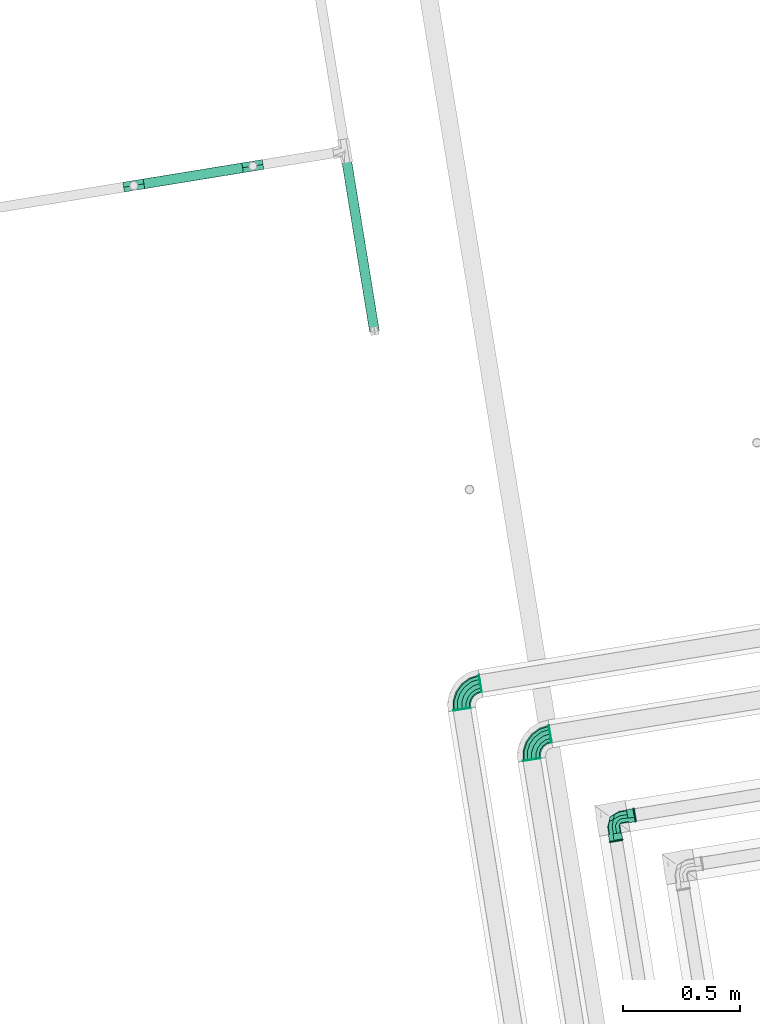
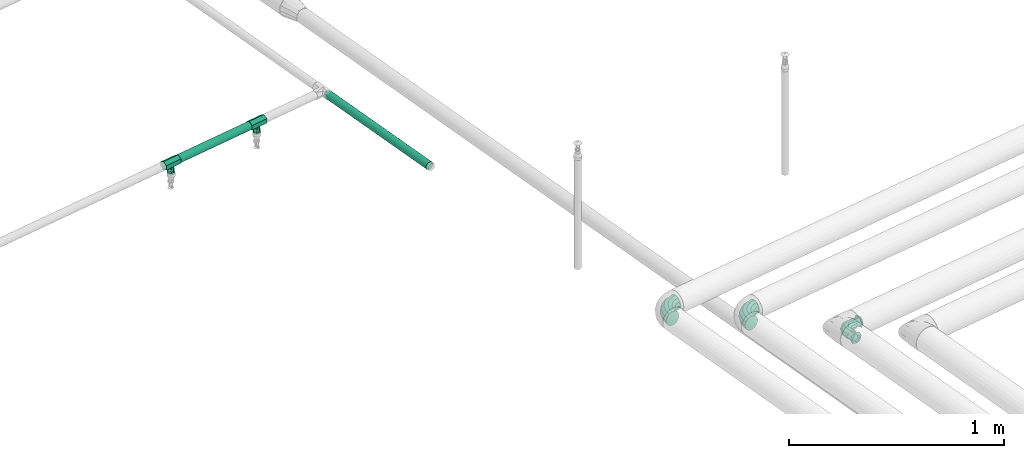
# One storey, part 21 of 46: 9 flow fittings, 2 flow segments.
"""IFC2X3 building model written with IfcOpenShell, lengths in millimetres."""

from ifc_helpers import new_model, entity, si_unit, converted_unit, derived_unit, direction, frame, frame_2d, origin, origin_with_axes, origin_2d_with_axis, place, context, subcontext, project, spatial, circle, extrude, faceted_brep, source, transform, mapped, material, material_list, type_object, element, save


model = new_model("IFC2X3")

# Units and contexts
model_context = context("Model", 3, precision=0.01, world=origin(), true_north=direction((6.12323399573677e-17, 1.0)))
plan_context = context("Plan", 3, precision=1e-05, world=origin_with_axes())
body_context = subcontext(model_context, "Body", "Model", "MODEL_VIEW")
ifc_project = project(units=[converted_unit("PLANEANGLEUNIT", "DEGREE", entity("IfcPositiveLengthMeasure", 0.0174532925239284), si_unit("PLANEANGLEUNIT", "RADIAN"), dimensions=[0, 0, 0, 0, 0, 0, 0]), si_unit("AREAUNIT", "SQUARE_METRE"), si_unit("LENGTHUNIT", "METRE", prefix="MILLI"), si_unit("MASSUNIT", "GRAM", prefix="KILO"), si_unit("POWERUNIT", "WATT"), si_unit("PRESSUREUNIT", "PASCAL", prefix="KILO"), si_unit("FORCEUNIT", "NEWTON", prefix="KILO"), si_unit("ELECTRICVOLTAGEUNIT", "VOLT"), si_unit("ELECTRICCURRENTUNIT", "AMPERE"), si_unit("THERMODYNAMICTEMPERATUREUNIT", "DEGREE_CELSIUS"), si_unit("TIMEUNIT", "SECOND"), si_unit("VOLUMEUNIT", "CUBIC_METRE"), derived_unit("LINEARVELOCITYUNIT", [(si_unit("LENGTHUNIT", "METRE"), 1), (si_unit("TIMEUNIT", "SECOND"), -1)]), derived_unit("VOLUMETRICFLOWRATEUNIT", [(si_unit("VOLUMEUNIT", "CUBIC_METRE"), 1), (si_unit("TIMEUNIT", "SECOND"), -1)]), derived_unit("THERMALTRANSMITTANCEUNIT", [(si_unit("POWERUNIT", "WATT"), 1), (si_unit("THERMODYNAMICTEMPERATUREUNIT", "KELVIN"), -1), (si_unit("AREAUNIT", "SQUARE_METRE"), -1)]), derived_unit("SOUNDPRESSUREUNIT", [(si_unit("PRESSUREUNIT", "PASCAL"), 1)])], contexts=[model_context, plan_context])

# Site, building, storey
site_placement = place(None, frame((-3.09682673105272e-06, 1.93776733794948e-05, 0.0), z_axis=(0.0, 0.0, 1.0), x_axis=(-0.160806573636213, 0.986985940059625, 0.0)))
site = spatial("IfcSite", under=ifc_project, at=site_placement, Name="Default", CompositionType="ELEMENT")
building_placement = place(site_placement, frame((0.0, 0.0, 0.0), z_axis=(0.0, 0.0, 1.0), x_axis=(1.0, -2.77555756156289e-17, 0.0)))
building = spatial("IfcBuilding", under=site, at=building_placement, Name="Bygning (endres i Project Information)", CompositionType="ELEMENT")
storey_placement = place(building_placement, frame((0.0, 0.0, 51360.0000000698), z_axis=(0.0, 0.0, 1.0), x_axis=(1.0, -2.77555756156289e-17, 0.0)))
storey = spatial("IfcBuildingStorey", under=building, at=storey_placement, Name="H01-Nivå D+0,36", CompositionType="ELEMENT", Elevation=51360.0000000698)

# Flow fittings
ifc_material_1 = material(Name="3320.001")
pipe_fitting_type_1 = type_object("IfcPipeFittingType", Name="RS_53_PIF_UN_Tee-Reduced-EN10241_MC_gen:RS_53_PIF_UN_Tee-Reduced-EN10241_MC_gen", PredefinedType="NOTDEFINED", material=ifc_material_1)
shared_shape_1 = source(origin(), body_context, "Body", "Brep", [
    faceted_brep([(44.0, 24.4999999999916, 0.0), (44.0, 18.3749999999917, 10.6088111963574), (44.0, 12.2499999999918, 21.2176223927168), (44.0, 0.0, 21.2176223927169), (44.0, -12.2500000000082, 21.217622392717), (44.0, -18.3750000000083, 10.6088111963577), (44.0, -24.5000000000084, 0.0), (44.0, -21.6281924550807, -4.97411657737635), (44.0, -18.3750000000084, -10.6088111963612), (44.0, -12.2500000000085, -21.2176223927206), (44.0, 0.0, -21.2176223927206), (44.0, 12.2499999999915, -21.2176223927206), (44.0, 18.3749999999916, -10.6088111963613), (-44.0, -12.2500000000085, -21.2176223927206), (-44.0, -18.3750000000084, -10.6088111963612), (-44.0, -24.5000000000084, 0.0), (-44.0, -21.6281923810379, 4.97411670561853), (-44.0, -18.3750000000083, 10.6088111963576), (-44.0, -12.2500000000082, 21.217622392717), (-44.0, 0.0, 21.2176223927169), (-44.0, 12.2499999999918, 21.2176223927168), (-44.0, 18.7563847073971, 9.94823350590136), (-44.0, 24.4999999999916, 0.0), (-44.0, 18.3749999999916, -10.6088111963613), (-44.0, 12.2499999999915, -21.2176223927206), (-44.0, 0.0, -21.2176223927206), (-8.07289668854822, -19.7195683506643, 9.70917342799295), (3.60420662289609, -14.9391367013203, 19.4183468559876), (15.7135516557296, -22.1097841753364, 4.85458671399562), (-19.7499999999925, -24.5000000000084, 0.0), (11.6771033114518, -19.7195683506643, 9.70917342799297), (19.7500000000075, -24.5000000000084, 0.0), (-15.715142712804, -22.1101683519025, -4.85429113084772), (-3.61057085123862, -14.9406734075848, -19.4171645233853), (-11.6802854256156, -19.7203367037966, -9.70858226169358), (8.06971457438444, -19.7203367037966, -9.70858226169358), (9.87500000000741, -51.0, -17.1040017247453), (14.8125000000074, -51.0, -8.55200086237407), (19.7500000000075, -51.0, 0.0), (14.8125000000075, -51.0, 8.55200086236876), (9.87500000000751, -51.0, 17.1040017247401), (0.0, -51.0, 17.1040017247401), (-9.87499999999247, -51.0, 17.1040017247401), (-14.8124999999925, -51.0, 8.55200086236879), (-19.7499999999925, -51.0, 0.0), (-14.8124999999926, -51.0, -8.55200086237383), (-9.87499999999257, -51.0, -17.1040017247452), (0.0, -51.0, -17.1040017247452)], [[[0, 1, 2, 3, 4, 5, 6, 7, 8, 9, 10, 11, 12]], [[13, 14, 15, 16, 17, 18, 19, 20, 21, 22, 23, 24, 25]], [[1, 0, 22, 21, 20, 2]], [[2, 20, 19, 3]], [[26, 17, 16]], [[18, 27, 19]], [[28, 6, 5]], [[29, 16, 15]], [[5, 27, 30, 28]], [[5, 4, 27]], [[27, 17, 26]], [[17, 27, 18]], [[26, 16, 29]], [[6, 28, 31]], [[19, 27, 3]], [[4, 3, 27]], [[32, 15, 14]], [[14, 33, 34, 32]], [[31, 7, 6]], [[35, 8, 7]], [[8, 33, 9]], [[33, 8, 35]], [[15, 32, 29]], [[24, 23, 22, 0, 12, 11]], [[25, 24, 11, 10]], [[14, 13, 33]], [[13, 25, 33]], [[35, 7, 31]], [[10, 33, 25]], [[10, 9, 33]], [[36, 37, 38, 39, 40, 41, 42, 43, 44, 45, 46, 47]], [[29, 45, 44]], [[34, 46, 45]], [[35, 36, 47]], [[33, 46, 34]], [[37, 36, 35]], [[45, 29, 32, 34]], [[31, 37, 35]], [[37, 31, 38]], [[47, 46, 33]], [[35, 47, 33]], [[31, 39, 38]], [[30, 40, 39]], [[26, 42, 41]], [[27, 40, 30]], [[43, 42, 26]], [[39, 31, 28, 30]], [[29, 43, 26]], [[43, 29, 44]], [[41, 40, 27]], [[26, 41, 27]]]),
])
for number, where, z_axis, x_axis in (
    (1, (1002299.88520526, -345724.575122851, 3458.80002629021), (1.0, -2.77555756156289e-17, 0.0), (2.77555756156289e-17, 1.0, 0.0)),
    (2, (1002299.88520526, -346239.575122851, 3458.80002629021), (1.0, -2.77555756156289e-17, 0.0), (2.77555756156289e-17, 1.0, 0.0)),
):
    element("IfcFlowFitting", number, at=place(storey_placement, frame(where, z_axis=z_axis, x_axis=x_axis)), inside=storey, type_object=pipe_fitting_type_1, material=ifc_material_1, Name="RS_53_PIF_UN_Tee-Reduced-EN10241_MC_gen:RS_53_PIF_UN_Tee-Reduced-EN10241_MC_gen", ObjectType="RS_53_PIF_UN_Tee-Reduced-EN10241_MC_gen:RS_53_PIF_UN_Tee-Reduced-EN10241_MC_gen", context=body_context, shape_type="MappedRepresentation", body=[
        mapped(shared_shape_1, transform((0.0, 0.0, 0.0), scale=1.0)),
    ])
ifc_material_2 = material(Name="<Unnamed>")
pipe_fitting_type_2 = type_object("IfcPipeFittingType", Name="Sveis:Sveis", PredefinedType="NOTDEFINED", material=ifc_material_2)
shared_shape_2 = source(origin(), body_context, "Body", "SweptSolid", [
    extrude(circle(Radius=38.05, at=frame_2d((1.62943588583e-15, -6.14714710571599e-14), x_axis=(1.0, 0.0))), origin(), (0.0, 0.0, 1.0), 2.0),
])
for number, where, z_axis, x_axis in (
    (3, (999963.367642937, -346841.899155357, 3440.0), (-2.77555756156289e-17, -1.0, 0.0), (1.0, -2.77555756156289e-17, 0.0)),
    (4, (999868.867642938, -346747.399155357, 3440.0), (-1.0, 2.77555756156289e-17, 0.0), (0.0, 0.0, 1.0)),
    (5, (999703.367642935, -347101.899155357, 3440.0), (-2.77555756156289e-17, -1.0, 0.0), (1.0, -2.77555756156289e-17, 0.0)),
    (6, (999608.867642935, -347007.399155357, 3440.0), (-1.0, 2.77555756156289e-17, 0.0), (0.0, 0.0, 1.0)),
):
    element("IfcFlowFitting", number, at=place(storey_placement, frame(where, z_axis=z_axis, x_axis=x_axis)), inside=storey, type_object=pipe_fitting_type_2, material=ifc_material_2, Name="Sveis:Sveis", ObjectType="Sveis:Sveis", context=body_context, shape_type="MappedRepresentation", body=[
        mapped(shared_shape_2, transform((0.0, 0.0, 0.0), scale=1.0)),
    ])
ifc_material_3 = material(Name="Geberit_Plastic_Red")
ifc_material_4 = material(Name="Geberit_Mapress_C-Steel")
ifc_material_list = material_list([ifc_material_3, ifc_material_4])
pipe_fitting_type_3 = type_object("IfcPipeFittingType", Name="PRO_103184:DN10-100 / d12-108 - OD", PredefinedType="BEND", material=ifc_material_list)
shared_shape_3 = source(origin(), body_context, "Body", "Brep", [
    faceted_brep([(-8.80698433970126, 100.0, -27.1051107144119), (-9.84650783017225, 92.0, -13.552555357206), (-6.27743726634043, 92.0, -16.1456369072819), (8.80698433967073, 92.0, -27.1051107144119), (-15.6876901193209, 100.0, -17.6346316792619), (-28.5000000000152, 92.0, 0.0), (9.84650783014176, 100.0, -13.552555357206), (18.6534921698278, 92.0, -13.552555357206), (28.4999999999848, 92.0, 0.0), (28.4999999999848, 100.0, 0.0), (-28.5000000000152, 100.0, 0.0), (8.80698433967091, 100.0, 27.1051107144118), (9.84650783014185, 92.0, 13.5525553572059), (6.27743726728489, 92.0, 16.1456369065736), (-8.80698433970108, 92.0, 27.1051107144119), (15.6876904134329, 100.0, 17.6346312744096), (-9.84650783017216, 100.0, 13.552555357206), (-18.6534921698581, 92.0, 13.5525553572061), (-23.6776285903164, 98.4509619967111, -21.0189790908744), (-23.6307699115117, 94.6274304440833, -21.9569893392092), (-32.5000000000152, 96.0, 0.0), (-1.90597797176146, 95.9349964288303, -32.4435342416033), (23.6776286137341, 93.5490379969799, -21.0189790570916), (32.4999999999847, 96.0, 0.0), (-6.15280214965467, 98.7902501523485, -30.7567062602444), (22.1275082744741, 97.7912013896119, -23.222347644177), (23.6776285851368, 98.4509619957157, 21.0189790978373), (23.6307699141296, 94.6274304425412, 21.9569893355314), (1.90597798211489, 95.9349964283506, 32.4435342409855), (-23.6776286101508, 93.5490379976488, 21.0189790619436), (6.15280214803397, 98.7902501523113, 30.7567062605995), (-22.1275082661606, 97.7912013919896, 23.2223476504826)], [[[0, 1, 2, 3]], [[4, 1, 0]], [[4, 5, 1]], [[6, 0, 3]], [[6, 3, 7]], [[7, 8, 9]], [[4, 10, 5]], [[6, 7, 9]], [[11, 12, 13, 14]], [[15, 8, 12]], [[15, 12, 11]], [[16, 14, 17]], [[17, 5, 10]], [[16, 17, 10]], [[15, 9, 8]], [[16, 11, 14]], [[18, 10, 4, 0]], [[19, 2, 1, 5]], [[18, 19, 20]], [[3, 2, 21]], [[5, 20, 19]], [[3, 21, 22]], [[23, 8, 22]], [[19, 18, 21]], [[20, 10, 18]], [[22, 8, 7, 3]], [[0, 24, 18]], [[25, 23, 22]], [[21, 2, 19]], [[24, 6, 25]], [[25, 22, 21]], [[25, 21, 24]], [[9, 23, 25]], [[21, 18, 24]], [[6, 24, 0]], [[6, 9, 25]], [[26, 9, 15, 11]], [[27, 13, 12, 8]], [[26, 27, 23]], [[14, 13, 28]], [[8, 23, 27]], [[14, 28, 29]], [[20, 5, 29]], [[27, 26, 28]], [[23, 9, 26]], [[29, 5, 17, 14]], [[11, 30, 26]], [[31, 20, 29]], [[28, 13, 27]], [[30, 16, 31]], [[31, 29, 28]], [[31, 28, 30]], [[10, 20, 31]], [[28, 26, 30]], [[16, 30, 11]], [[16, 10, 31]]]),
    faceted_brep([(-8.3434588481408, 100.0, -25.6785259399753), (-9.32827057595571, 64.0, -12.8392629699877), (-0.492405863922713, 64.0, -19.2588944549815), (8.34345884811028, 64.0, -25.6785259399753), (-15.3088252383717, 100.0, -16.0915215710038), (-27.0, 64.0, 0.0), (-18.1641352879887, 64.0, -6.41963148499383), (-27.0, 100.0, 0.0), (9.32827057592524, 100.0, -12.8392629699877), (13.0075941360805, 64.0, -19.2588944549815), (17.6717294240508, 64.0, -12.8392629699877), (27.0, 100.0, 0.0), (22.335864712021, 64.0, -6.4196314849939), (27.0, 64.0, 0.0), (8.34345884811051, 100.0, 25.6785259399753), (9.32827057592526, 64.0, 12.8392629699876), (0.492405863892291, 64.0, 19.2588944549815), (-8.34345884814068, 64.0, 25.6785259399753), (15.3088252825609, 100.0, 16.0915215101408), (18.1641352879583, 64.0, 6.41963148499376), (-9.32827057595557, 100.0, 12.8392629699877), (-13.0075941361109, 64.0, 19.2588944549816), (-17.6717294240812, 64.0, 12.8392629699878), (-22.3358647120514, 64.0, 6.419631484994), (28.4999999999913, 100.0, 0.0), (9.84650783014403, 100.0, -13.5525553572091), (-8.80698433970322, 100.0, -27.105110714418), (18.6534921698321, 100.0, 13.5525553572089), (8.80698433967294, 100.0, 27.105110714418), (-18.6534921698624, 100.0, -13.552555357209), (-28.5000000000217, 100.0, 0.0), (-9.84650783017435, 100.0, 13.5525553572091), (-18.6534921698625, 65.0, -13.552555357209), (-23.5767460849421, 65.0, -6.7762776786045), (-28.5000000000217, 65.0, 0.0), (-8.80698433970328, 65.0, -27.105110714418), (-13.7302382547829, 65.0, -20.3288330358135), (28.4999999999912, 65.0, 0.0), (19.1732539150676, 65.0, -6.77627767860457), (12.3186749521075, 65.0, -11.7564208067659), (9.84650783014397, 65.0, -13.5525553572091), (0.519761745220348, 65.0, -20.3288330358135), (18.6534921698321, 65.0, 13.5525553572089), (23.5767460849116, 65.0, 6.77627767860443), (8.80698433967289, 65.0, 27.105110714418), (13.7302382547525, 65.0, 20.3288330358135), (-19.1732539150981, 65.0, 6.77627767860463), (-12.3186749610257, 65.0, 11.7564208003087), (-9.84650783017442, 65.0, 13.5525553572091), (-0.519761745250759, 65.0, 20.3288330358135)], [[[0, 1, 2, 3]], [[4, 5, 6, 1]], [[4, 7, 5]], [[8, 3, 9, 10]], [[11, 10, 12, 13]], [[8, 10, 11]], [[8, 0, 3]], [[4, 1, 0]], [[14, 15, 16, 17]], [[18, 13, 19, 15]], [[18, 11, 13]], [[20, 17, 21, 22]], [[7, 22, 23, 5]], [[20, 22, 7]], [[20, 14, 17]], [[18, 15, 14]], [[11, 24, 25]], [[11, 25, 26]], [[26, 8, 11]], [[11, 27, 24]], [[11, 28, 27]], [[28, 11, 18]], [[28, 18, 14]], [[28, 14, 20]], [[28, 20, 7]], [[7, 26, 29]], [[26, 7, 4]], [[7, 29, 30]], [[7, 30, 31]], [[7, 31, 28]], [[26, 4, 0]], [[26, 0, 8]], [[32, 33, 34, 30, 29, 26, 35, 36]], [[24, 37, 38, 39, 40, 41, 35, 26, 25]], [[42, 43, 37, 24, 27, 28, 44, 45]], [[30, 34, 46, 47, 48, 49, 44, 28, 31]], [[1, 6, 32]], [[34, 33, 5]], [[5, 33, 6]], [[36, 35, 1, 32]], [[10, 40, 39, 38]], [[9, 3, 40, 10]], [[6, 33, 32]], [[41, 2, 35]], [[38, 12, 10]], [[2, 41, 3]], [[37, 12, 38]], [[13, 12, 37]], [[40, 3, 41]], [[35, 2, 1]], [[15, 19, 42]], [[37, 43, 13]], [[13, 43, 19]], [[45, 44, 15, 42]], [[22, 48, 47, 46]], [[21, 17, 48, 22]], [[19, 43, 42]], [[49, 16, 44]], [[46, 23, 22]], [[16, 49, 17]], [[34, 23, 46]], [[5, 23, 34]], [[48, 17, 49]], [[44, 16, 15]]]),
    faceted_brep([(-100.0, -8.8069843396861, -27.1051107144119), (-92.0, -9.84650783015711, -13.552555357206), (-92.0, -6.27743726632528, -16.1456369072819), (-92.0, 8.80698433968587, -27.1051107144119), (-100.0, -15.6876901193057, -17.6346316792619), (-92.0, -28.5000000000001, 0.0), (-100.0, 9.84650783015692, -13.552555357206), (-92.0, 18.6534921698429, -13.552555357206), (-92.0, 28.4999999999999, 0.0), (-100.0, 28.4999999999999, 0.0), (-100.0, -28.5000000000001, 0.0), (-100.0, 8.80698433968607, 27.1051107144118), (-92.0, 9.84650783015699, 13.5525553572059), (-92.0, 6.27743726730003, 16.1456369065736), (-92.0, -8.80698433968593, 27.1051107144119), (-100.0, 15.687690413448, 17.6346312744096), (-100.0, -9.846507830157, 13.552555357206), (-92.0, -18.653492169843, 13.5525553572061), (-98.4509619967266, -23.6776285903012, -21.0189790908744), (-94.6274304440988, -23.6307699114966, -21.9569893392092), (-96.0, -32.5, 0.0), (-95.9349964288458, -1.90597797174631, -32.4435342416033), (-93.5490379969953, 23.6776286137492, -21.0189790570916), (-96.0, 32.4999999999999, 0.0), (-98.790250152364, -6.15280214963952, -30.7567062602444), (-97.7912013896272, 22.1275082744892, -23.222347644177), (-98.4509619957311, 23.677628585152, 21.0189790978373), (-94.6274304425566, 23.6307699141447, 21.9569893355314), (-95.934996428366, 1.90597798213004, 32.4435342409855), (-93.5490379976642, -23.6776286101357, 21.0189790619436), (-98.7902501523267, 6.15280214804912, 30.7567062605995), (-97.7912013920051, -22.1275082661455, 23.2223476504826)], [[[0, 1, 2, 3]], [[4, 1, 0]], [[4, 5, 1]], [[6, 0, 3]], [[6, 3, 7]], [[7, 8, 9]], [[4, 10, 5]], [[6, 7, 9]], [[11, 12, 13, 14]], [[15, 8, 12]], [[15, 12, 11]], [[16, 14, 17]], [[17, 5, 10]], [[16, 17, 10]], [[15, 9, 8]], [[16, 11, 14]], [[18, 10, 4, 0]], [[19, 2, 1, 5]], [[18, 19, 20]], [[3, 2, 21]], [[5, 20, 19]], [[3, 21, 22]], [[23, 8, 22]], [[19, 18, 21]], [[20, 10, 18]], [[22, 8, 7, 3]], [[0, 24, 18]], [[25, 23, 22]], [[21, 2, 19]], [[24, 6, 25]], [[25, 22, 21]], [[25, 21, 24]], [[9, 23, 25]], [[21, 18, 24]], [[6, 24, 0]], [[6, 9, 25]], [[26, 9, 15, 11]], [[27, 13, 12, 8]], [[26, 27, 23]], [[14, 13, 28]], [[8, 23, 27]], [[14, 28, 29]], [[20, 5, 29]], [[27, 26, 28]], [[23, 9, 26]], [[29, 5, 17, 14]], [[11, 30, 26]], [[31, 20, 29]], [[28, 13, 27]], [[30, 16, 31]], [[31, 29, 28]], [[31, 28, 30]], [[10, 20, 31]], [[28, 26, 30]], [[16, 30, 11]], [[16, 10, 31]]]),
    faceted_brep([(-100.0, -8.34345884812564, -25.6785259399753), (-64.0, -9.32827057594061, -12.8392629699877), (-64.0, -0.492405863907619, -19.2588944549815), (-64.0, 8.34345884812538, -25.6785259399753), (-100.0, -15.3088252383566, -16.0915215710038), (-64.0, -27.0, 0.0), (-64.0, -18.1641352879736, -6.41963148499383), (-100.0, -27.0, 0.0), (-100.0, 9.32827057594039, -12.8392629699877), (-64.0, 13.0075941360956, -19.2588944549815), (-64.0, 17.6717294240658, -12.8392629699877), (-100.0, 27.0, 0.0), (-64.0, 22.3358647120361, -6.4196314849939), (-64.0, 27.0, 0.0), (-100.0, 8.34345884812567, 25.6785259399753), (-64.0, 9.32827057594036, 12.8392629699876), (-64.0, 0.492405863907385, 19.2588944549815), (-64.0, -8.34345884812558, 25.6785259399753), (-100.0, 15.3088252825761, 16.0915215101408), (-64.0, 18.1641352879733, 6.41963148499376), (-100.0, -9.32827057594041, 12.8392629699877), (-64.0, -13.0075941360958, 19.2588944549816), (-64.0, -17.6717294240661, 12.8392629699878), (-64.0, -22.3358647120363, 6.419631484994), (-100.0, 28.5000000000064, 0.0), (-100.0, 9.84650783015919, -13.5525553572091), (-100.0, -8.80698433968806, -27.105110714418), (-100.0, 18.6534921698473, 13.5525553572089), (-100.0, 8.80698433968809, 27.105110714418), (-100.0, -18.6534921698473, -13.552555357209), (-100.0, -28.5000000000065, 0.0), (-100.0, -9.84650783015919, 13.5525553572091), (-65.0, -18.6534921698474, -13.552555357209), (-65.0, -23.576746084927, -6.7762776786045), (-65.0, -28.5000000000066, 0.0), (-65.0, -8.80698433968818, -27.105110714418), (-65.0, -13.7302382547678, -20.3288330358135), (-65.0, 28.5000000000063, 0.0), (-65.0, 19.1732539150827, -6.77627767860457), (-65.0, 12.3186749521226, -11.7564208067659), (-65.0, 9.84650783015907, -13.5525553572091), (-65.0, 0.519761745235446, -20.3288330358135), (-65.0, 18.6534921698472, 13.5525553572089), (-65.0, 23.5767460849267, 6.77627767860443), (-65.0, 8.80698433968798, 27.105110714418), (-65.0, 13.7302382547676, 20.3288330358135), (-65.0, -19.173253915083, 6.77627767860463), (-65.0, -12.3186749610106, 11.7564208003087), (-65.0, -9.84650783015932, 13.5525553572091), (-65.0, -0.519761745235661, 20.3288330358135)], [[[0, 1, 2, 3]], [[4, 5, 6, 1]], [[4, 7, 5]], [[8, 3, 9, 10]], [[11, 10, 12, 13]], [[8, 10, 11]], [[8, 0, 3]], [[4, 1, 0]], [[14, 15, 16, 17]], [[18, 13, 19, 15]], [[18, 11, 13]], [[20, 17, 21, 22]], [[7, 22, 23, 5]], [[20, 22, 7]], [[20, 14, 17]], [[18, 15, 14]], [[11, 24, 25]], [[11, 25, 26]], [[26, 8, 11]], [[11, 27, 24]], [[11, 28, 27]], [[28, 11, 18]], [[28, 18, 14]], [[28, 14, 20]], [[28, 20, 7]], [[7, 26, 29]], [[26, 7, 4]], [[7, 29, 30]], [[7, 30, 31]], [[7, 31, 28]], [[26, 4, 0]], [[26, 0, 8]], [[32, 33, 34, 30, 29, 26, 35, 36]], [[24, 37, 38, 39, 40, 41, 35, 26, 25]], [[42, 43, 37, 24, 27, 28, 44, 45]], [[30, 34, 46, 47, 48, 49, 44, 28, 31]], [[1, 6, 32]], [[34, 33, 5]], [[5, 33, 6]], [[36, 35, 1, 32]], [[10, 40, 39, 38]], [[9, 3, 40, 10]], [[6, 33, 32]], [[41, 2, 35]], [[38, 12, 10]], [[2, 41, 3]], [[37, 12, 38]], [[13, 12, 37]], [[40, 3, 41]], [[35, 2, 1]], [[15, 19, 42]], [[37, 43, 13]], [[13, 43, 19]], [[45, 44, 15, 42]], [[22, 48, 47, 46]], [[21, 17, 48, 22]], [[19, 43, 42]], [[49, 16, 44]], [[46, 23, 22]], [[16, 49, 17]], [[34, 23, 46]], [[5, 23, 34]], [[48, 17, 49]], [[44, 16, 15]]]),
    faceted_brep([(-65.0, -27.0, 0.0), (-65.0, -23.38268590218, 13.4999999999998), (-65.0, -6.98811421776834, 26.0799973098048), (-65.0, 6.98811421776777, 26.0799973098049), (-65.0, 23.3826859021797, 13.5000000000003), (-65.0, 27.0, 0.0), (-65.0, 23.3826859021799, -13.5), (-65.0, 6.98811421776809, -26.0799973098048), (-65.0, -6.98811421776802, -26.0799973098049), (-65.0, -23.3826859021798, -13.5000000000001), (-32.0, -27.0, 0.0), (-32.0, -23.38268590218, 13.4999999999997), (-32.0, -6.98811421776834, 26.0799973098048), (-32.0, 6.98811421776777, 26.0799973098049), (6.98811421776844, 65.0, 26.0799973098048), (-6.98811421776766, 65.0, 26.0799973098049), (-6.98811421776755, 32.0, 26.079997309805), (6.98811421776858, 32.0, 26.0799973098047), (-32.0, 23.3826859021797, 13.5000000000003), (-32.0, 27.0, 0.0), (-32.0, 23.3826859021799, -13.5), (-32.0, 6.98811421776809, -26.0799973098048), (-32.0, -6.98811421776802, -26.0799973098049), (-6.98811421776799, 65.0, -26.0799973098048), (6.98811421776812, 65.0, -26.0799973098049), (6.98811421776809, 32.0, -26.0799973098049), (-6.98811421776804, 32.0, -26.0799973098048), (-32.0, -23.3826859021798, -13.5000000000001), (16.9310720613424, 7.69145761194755, 0.0), (27.0, 32.0, 0.0), (23.3826859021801, 32.0, 13.4999999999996), (16.2465635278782, 10.9007021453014, 17.3847310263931), (-3.16179884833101, 3.16179622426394, 25.5313980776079), (-7.69145902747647, -16.931072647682, 0.0), (-10.9007067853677, -16.2465642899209, 17.3847324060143), (-28.4644660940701, 28.4644660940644, 0.0), (-23.3826859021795, 32.0, 13.5000000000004), (-17.4984421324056, 17.498441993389, 24.4323725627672), (9.71930008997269, -9.71930009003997, 0.0), (-27.0, 32.0, 0.0), (16.2465630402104, 10.9007037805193, -17.3847323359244), (23.3826859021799, 32.0, -13.5), (-17.4984431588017, 17.4984410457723, -24.4323725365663), (-3.16179542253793, 3.16179350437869, -25.5313965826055), (-10.9007057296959, -16.2465641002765, -17.384732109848), (-23.3826859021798, 32.0, -13.5), (-23.3826859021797, 65.0, -13.5), (-27.0, 65.0, 0.0), (-23.3826859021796, 65.0, 13.5000000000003), (23.3826859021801, 65.0, 13.4999999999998), (27.0, 65.0, 0.0), (23.3826859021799, 65.0, -13.5000000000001)], [[[0, 1, 2, 3, 4, 5, 6, 7, 8, 9]], [[0, 10, 11, 1]], [[1, 11, 12, 2]], [[12, 13, 3, 2]], [[14, 15, 16, 17]], [[3, 13, 18, 4]], [[4, 18, 19, 5]], [[5, 19, 20, 6]], [[6, 20, 21, 7]], [[21, 22, 8, 7]], [[23, 24, 25, 26]], [[8, 22, 27, 9]], [[9, 27, 10, 0]], [[28, 29, 30]], [[31, 28, 30]], [[13, 12, 32]], [[11, 33, 34]], [[17, 32, 31]], [[35, 18, 36]], [[31, 32, 34]], [[35, 19, 18]], [[18, 13, 37]], [[34, 12, 11]], [[34, 38, 31]], [[30, 17, 31]], [[32, 37, 13]], [[11, 10, 33]], [[31, 38, 28]], [[18, 37, 36]], [[35, 36, 39]], [[38, 34, 33]], [[36, 37, 16]], [[16, 37, 32]], [[32, 12, 34]], [[17, 16, 32]], [[40, 25, 41]], [[33, 10, 27]], [[42, 21, 20]], [[21, 42, 43]], [[27, 22, 44]], [[43, 42, 26]], [[33, 44, 38]], [[22, 21, 43]], [[44, 43, 40]], [[38, 40, 28]], [[20, 19, 35]], [[35, 39, 45]], [[45, 42, 20]], [[41, 29, 28]], [[26, 42, 45]], [[22, 43, 44]], [[41, 28, 40]], [[44, 40, 38]], [[43, 25, 40]], [[44, 33, 27]], [[25, 43, 26]], [[45, 20, 35]], [[23, 46, 47, 48, 15, 14, 49, 50, 51, 24]], [[29, 50, 49, 30]], [[30, 49, 14, 17]], [[16, 15, 48, 36]], [[36, 48, 47, 39]], [[39, 47, 46, 45]], [[45, 46, 23, 26]], [[25, 24, 51, 41]], [[41, 51, 50, 29]]]),
])
flow_fitting_placement = place(storey_placement, frame((999303.404808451, -347307.399155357, 3440.0), z_axis=(0.0, 0.0, 1.0), x_axis=(2.77555756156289e-17, 1.0, 0.0)))
element("IfcFlowFitting", 7, at=flow_fitting_placement, inside=storey, type_object=pipe_fitting_type_3, material=ifc_material_list, Name="PRO_103184:DN10-100 / d12-108 - OD", ObjectType="PRO_103184:DN10-100 / d12-108 - OD", context=body_context, shape_type="MappedRepresentation", body=[
    mapped(shared_shape_3, transform((0.0, 0.0, 0.0), scale=1.0)),
])
pipe_fitting_type_4 = type_object("IfcPipeFittingType", Name="Bend sveist:EN 10253-1 S235 3D ISO", PredefinedType="NOTDEFINED", material=ifc_material_1)
shared_shape_4 = source(origin(), body_context, "Body", "Brep", [
    faceted_brep([(-53.5397973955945, -31.5625412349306, 0.0), (-55.1150836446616, -26.714308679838, 19.024999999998), (-94.4999999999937, -32.9522666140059, 19.024999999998), (-94.4999999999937, -38.050000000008, 0.0), (-59.4188457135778, -13.4686910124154, 32.9522666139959), (-94.4999999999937, -19.0250000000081, 32.9522666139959), (-65.2978940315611, 4.62515921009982, 38.0499999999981), (-94.4999999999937, 0.0, 38.0499999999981), (-71.1769423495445, 22.7190094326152, 32.9522666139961), (-94.4999999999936, 19.0249999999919, 32.9522666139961), (-75.4807044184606, 35.9646271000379, 19.0249999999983), (-94.4999999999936, 32.9522666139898, 19.0249999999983), (-77.0559906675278, 40.8128596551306, 0.0), (-94.4999999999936, 38.049999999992, 0.0), (-75.4807044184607, 35.964627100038, -19.0250000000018), (-94.4999999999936, 32.9522666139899, -19.0250000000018), (-71.1769423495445, 22.7190094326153, -32.9522666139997), (-94.4999999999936, 19.0249999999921, -32.9522666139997), (-65.2978940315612, 4.62515921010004, -38.0500000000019), (-94.4999999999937, 0.0, -38.0500000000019), (-59.4188457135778, -13.4686910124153, -32.9522666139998), (-94.4999999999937, -19.0250000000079, -32.9522666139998), (-55.1150836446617, -26.7143086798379, -19.025000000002), (-94.4999999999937, -32.9522666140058, -19.025000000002), (-16.5890648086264, -12.7352026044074, 0.0), (-19.5854373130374, -8.6110496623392, 19.024999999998), (-27.7716792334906, 2.65634571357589, 32.9522666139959), (-38.9542936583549, 18.0478940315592, 38.0499999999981), (-50.1369080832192, 33.4394423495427, 32.9522666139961), (-58.3231500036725, 44.7068377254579, 19.0249999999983), (-61.3195225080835, 48.8309906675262, 0.0), (-58.3231500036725, 44.7068377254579, -19.0250000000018), (-50.1369080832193, 33.4394423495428, -32.9522666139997), (-38.954293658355, 18.0478940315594, -38.0500000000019), (-27.7716792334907, 2.65634571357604, -32.9522666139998), (-19.5854373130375, -8.61104966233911, -19.025000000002), (12.7352026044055, 16.5890648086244, 0.0), (8.61104966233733, 19.5854373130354, 19.024999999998), (-2.65634571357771, 27.7716792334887, 32.9522666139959), (-18.047894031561, 38.954293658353, 38.0499999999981), (-33.4394423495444, 50.1369080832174, 32.9522666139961), (-44.7068377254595, 58.3231500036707, 19.0249999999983), (-48.8309906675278, 61.3195225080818, 0.0), (-44.7068377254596, 58.3231500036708, -19.0250000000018), (-33.4394423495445, 50.1369080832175, -32.9522666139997), (-18.0478940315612, 38.9542936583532, -38.0500000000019), (-2.65634571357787, 27.7716792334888, -32.9522666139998), (8.61104966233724, 19.5854373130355, -19.025000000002), (31.5625412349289, 53.5397973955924, 0.0), (26.7143086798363, 55.1150836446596, 19.024999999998), (13.4686910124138, 59.4188457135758, 32.9522666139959), (-4.62515921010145, 65.2978940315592, 38.0499999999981), (-22.7190094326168, 71.1769423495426, 32.9522666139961), (-35.9646271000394, 75.4807044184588, 19.0249999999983), (-40.8128596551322, 77.0559906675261, 0.0), (-35.9646271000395, 75.4807044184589, -19.0250000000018), (-22.7190094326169, 71.1769423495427, -32.9522666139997), (-4.62515921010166, 65.2978940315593, -38.0500000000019), (13.4686910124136, 59.4188457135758, -32.9522666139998), (26.7143086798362, 55.1150836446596, -19.025000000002), (38.0500000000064, 94.4999999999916, 0.0), (32.9522666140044, 94.4999999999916, 19.024999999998), (19.0250000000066, 94.4999999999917, 32.9522666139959), (0.0, 94.4999999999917, 38.0499999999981), (-19.0249999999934, 94.4999999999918, 32.9522666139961), (-32.9522666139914, 94.4999999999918, 19.0249999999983), (-38.0499999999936, 94.4999999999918, 0.0), (-32.9522666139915, 94.4999999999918, -19.0250000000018), (-19.0249999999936, 94.4999999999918, -32.9522666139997), (0.0, 94.4999999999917, -38.0500000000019), (19.0250000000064, 94.4999999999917, -32.9522666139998), (32.9522666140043, 94.4999999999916, -19.025000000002)], [[[0, 1, 2, 3]], [[1, 4, 5, 2]], [[4, 6, 7, 5]], [[6, 8, 9, 7]], [[8, 10, 11, 9]], [[10, 12, 13, 11]], [[12, 14, 15, 13]], [[14, 16, 17, 15]], [[16, 18, 19, 17]], [[18, 20, 21, 19]], [[20, 22, 23, 21]], [[22, 0, 3, 23]], [[24, 25, 1, 0]], [[25, 26, 4, 1]], [[26, 27, 6, 4]], [[27, 28, 8, 6]], [[28, 29, 10, 8]], [[29, 30, 12, 10]], [[30, 31, 14, 12]], [[31, 32, 16, 14]], [[32, 33, 18, 16]], [[33, 34, 20, 18]], [[34, 35, 22, 20]], [[35, 24, 0, 22]], [[36, 37, 25, 24]], [[37, 38, 26, 25]], [[38, 39, 27, 26]], [[39, 40, 28, 27]], [[40, 41, 29, 28]], [[41, 42, 30, 29]], [[42, 43, 31, 30]], [[43, 44, 32, 31]], [[44, 45, 33, 32]], [[45, 46, 34, 33]], [[46, 47, 35, 34]], [[47, 36, 24, 35]], [[48, 49, 37, 36]], [[49, 50, 38, 37]], [[50, 51, 39, 38]], [[51, 52, 40, 39]], [[52, 53, 41, 40]], [[53, 54, 42, 41]], [[54, 55, 43, 42]], [[55, 56, 44, 43]], [[56, 57, 45, 44]], [[57, 58, 46, 45]], [[58, 59, 47, 46]], [[59, 48, 36, 47]], [[60, 61, 49, 48]], [[61, 62, 50, 49]], [[62, 63, 51, 50]], [[63, 64, 52, 51]], [[64, 65, 53, 52]], [[65, 66, 54, 53]], [[66, 67, 55, 54]], [[67, 68, 56, 55]], [[68, 69, 57, 56]], [[69, 70, 58, 57]], [[70, 71, 59, 58]], [[71, 60, 48, 59]], [[3, 2, 5, 7, 9, 11, 13, 15, 17, 19, 21, 23]], [[71, 70, 69, 68, 67, 66, 65, 64, 63, 62, 61, 60]]]),
])
for number, where, z_axis, x_axis in (
    (8, (999963.367642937, -346747.399155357, 3440.0), (0.0, 0.0, 1.0), (2.77555756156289e-17, 1.0, 0.0)),
    (9, (999703.367642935, -347007.399155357, 3440.0), (0.0, 0.0, 1.0), (2.77555756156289e-17, 1.0, 0.0)),
):
    element("IfcFlowFitting", number, at=place(storey_placement, frame(where, z_axis=z_axis, x_axis=x_axis)), inside=storey, type_object=pipe_fitting_type_4, material=ifc_material_1, Name="Bend sveist:EN 10253-1 S235 3D ISO", ObjectType="Bend sveist:EN 10253-1 S235 3D ISO", context=body_context, shape_type="MappedRepresentation", body=[
        mapped(shared_shape_4, transform((0.0, 0.0, 0.0), scale=1.0)),
    ])

# Flow segments
pipe_segment_type = type_object("IfcPipeSegmentType", Name="Pipe Types:Stålrør sveist og gjenget", PredefinedType="NOTDEFINED", material=ifc_material_1)
flow_segment_1_placement = place(storey_placement, frame((0.0, 0.0, 0.0), z_axis=(0.0, 0.0, 1.0), x_axis=(1.0, -2.77555756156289e-17, 0.0)))
element("IfcFlowSegment", 10, at=flow_segment_1_placement, inside=storey, type_object=pipe_segment_type, Name="Pipe Types:Stålrør sveist og gjenget", ObjectType="Pipe Types:Stålrør sveist og gjenget", context=body_context, shape_type="SweptSolid", body=[
    extrude(circle(Radius=21.2000007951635, at=origin_2d_with_axis()), frame((1002299.88520526, -346216.975122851, 3458.8000262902), z_axis=(0.0, 1.0, 0.0), x_axis=(1.0, 0.0, 0.0)), (0.0, 0.0, 1.0), 469.79999999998),
])
flow_segment_2_placement = place(storey_placement, frame((0.0, 0.0, 0.0), z_axis=(0.0, 0.0, 1.0), x_axis=(1.0, -2.77555756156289e-17, 0.0)))
element("IfcFlowSegment", 11, at=flow_segment_2_placement, inside=storey, type_object=pipe_segment_type, Name="Pipe Types:Stålrør sveist og gjenget", ObjectType="Pipe Types:Stålrør sveist og gjenget", context=body_context, shape_type="SweptSolid", body=[
    extrude(circle(Radius=21.2000007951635, at=origin_2d_with_axis()), frame((1001519.88520526, -346638.795665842, 3458.79999913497), z_axis=(1.0, 0.0, 0.0), x_axis=(0.0, 1.0, 0.0)), (0.0, 0.0, 1.0), 750.399999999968),
])

save(model, "model.ifc")
